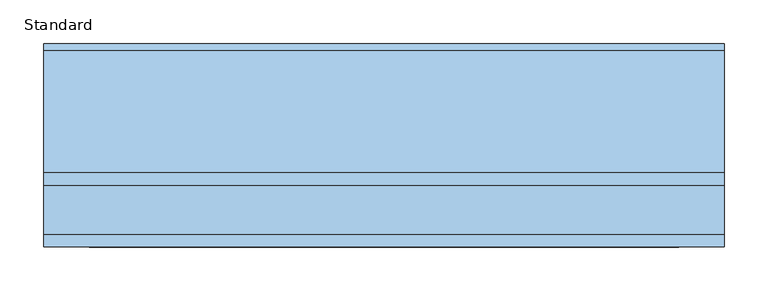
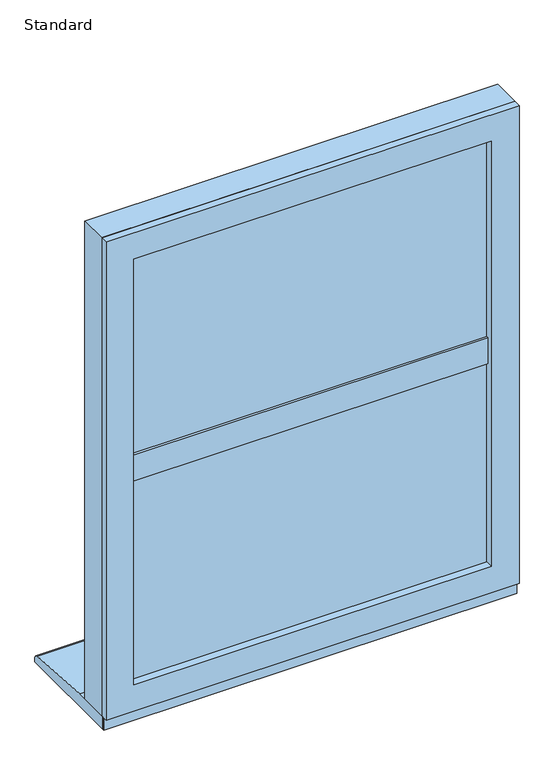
"""IFC4 building model written with IfcOpenShell, lengths in millimetres: window geometry, SMARTS_Alitherm600 : Standard."""

from ifc_helpers import new_model, si_unit, point, frame, frame_2d, origin, place, context, project, spatial, polyline, circle_curve, trimmed, segment, composite_curve, outline, extrude, faceted_brep, source, transform, mapped, element, save


def standard_74cfcb48(model_context):
    return source(origin(), model_context, "Body", "SolidModel", [
        extrude(outline(polyline([(354.1020883, 102.8298432), (354.1020883, 47.2458572), (-354.1020883, 47.2458572), (-354.1020883, 102.8298432), (354.1020883, 102.8298432)])), frame((0.0, 0.0, 1103.1), z_axis=(0.0, 0.0, 1.0), x_axis=(1.0, 0.0, 0.0)), (0.0, 0.0, 1.0), 18.8),
        extrude(outline(polyline([(337.6, 47.2458572), (337.6, 43.2798432), (-337.6, 43.2798432), (-337.6, 47.2458572), (337.6, 47.2458572)])), frame((0.0, 0.0, 1086.5979117), z_axis=(0.0, 0.0, 1.0), x_axis=(1.0, 0.0, 0.0)), (0.0, 0.0, 1.0), 51.8041766),
        extrude(outline(polyline([(-352.6, 77.7798432), (352.6, 77.7798432), (352.6, 73.7798432), (-352.6, 73.7798432), (-352.6, 77.7798432)])), frame((0.0, 0.0, 672.4), z_axis=(0.0, 0.0, 1.0), x_axis=(1.0, 0.0, 0.0)), (0.0, 0.0, 1.0), 429.1),
        extrude(outline(polyline([(-352.6, 57.7798432), (352.6, 57.7798432), (352.6, 53.7798432), (-352.6, 53.7798432), (-352.6, 57.7798432)])), frame((0.0, 0.0, 672.4), z_axis=(0.0, 0.0, 1.0), x_axis=(1.0, 0.0, 0.0)), (0.0, 0.0, 1.0), 429.1),
        extrude(outline(polyline([(1101.5, -352.6), (672.4, -352.6), (672.4, 352.6), (1101.5, 352.6), (1101.5, -352.6)]), holes=[polyline([(1091.5, 342.6), (682.4, 342.6), (682.4, -342.6), (1091.5, -342.6), (1091.5, 342.6)])]), frame((0.0, 57.7798432, 0.0), z_axis=(0.0, 1.0, 0.0), x_axis=(0.0, 0.0, 1.0)), (0.0, 0.0, 1.0), 16.0),
        faceted_brep([(-349.4160653, 102.7798432, 1098.3160653), (-337.2339746, 81.6798432, 1086.1339746), (-337.2339746, 81.6798432, 687.7660254), (-349.4160653, 102.7798432, 675.5839347), (337.2339746, 81.6798432, 687.7660254), (349.4160653, 102.7798432, 675.5839347), (337.2339746, 81.6798432, 1086.1339746), (349.4160653, 102.7798432, 1098.3160653), (354.1, 81.6798432, 1103.0), (354.1, 102.7798432, 1103.0), (-354.1, 102.7798432, 1103.0), (-354.1, 81.6798432, 1103.0), (-354.1, 102.7798432, 670.9), (-354.1, 81.6798432, 670.9), (354.1, 102.7798432, 670.9), (354.1, 81.6798432, 670.9)], [[[0, 1, 2, 3]], [[3, 2, 4, 5]], [[5, 4, 6, 7]], [[7, 6, 1, 0]], [[8, 9, 10, 11]], [[11, 10, 12, 13]], [[13, 12, 14, 15]], [[9, 14, 12, 10], [0, 3, 5, 7]], [[15, 14, 9, 8]], [[11, 13, 15, 8], [6, 4, 2, 1]]]),
        extrude(outline(polyline([(1590.0, 390.0), (1590.0, -390.0), (635.0, -390.0), (635.0, 390.0), (1590.0, 390.0)]), holes=[polyline([(670.85, 354.15), (670.85, -354.15), (1554.15, -354.15), (1554.15, 354.15), (670.85, 354.15)])]), frame((0.0, 47.2798427, 0.0), z_axis=(0.0, 1.0, 0.0), x_axis=(0.0, 0.0, 1.0)), (0.0, 0.0, 1.0), 55.5500006),
        extrude(outline(polyline([(1590.0, 390.0), (1590.0, -390.0), (635.0, -390.0), (635.0, 390.0), (1590.0, 390.0)]), holes=[polyline([(687.35, 337.65), (687.35, -337.65), (1537.65, -337.65), (1537.65, 337.65), (687.35, 337.65)])]), frame((0.0, 32.8298432, 0.0), z_axis=(0.0, 1.0, 0.0), x_axis=(0.0, 0.0, 1.0)), (0.0, 0.0, 1.0), 14.4499994),
        extrude(outline(polyline([(-352.6, 77.7798432), (352.6, 77.7798432), (352.6, 73.7798432), (-352.6, 73.7798432), (-352.6, 77.7798432)])), frame((0.0, 0.0, 1123.5), z_axis=(0.0, 0.0, 1.0), x_axis=(1.0, 0.0, 0.0)), (0.0, 0.0, 1.0), 429.1),
        extrude(outline(polyline([(-352.6, 57.7798432), (352.6, 57.7798432), (352.6, 53.7798432), (-352.6, 53.7798432), (-352.6, 57.7798432)])), frame((0.0, 0.0, 1123.5), z_axis=(0.0, 0.0, 1.0), x_axis=(1.0, 0.0, 0.0)), (0.0, 0.0, 1.0), 429.1),
        extrude(outline(polyline([(1552.6, -352.6), (1123.5, -352.6), (1123.5, 352.6), (1552.6, 352.6), (1552.6, -352.6)]), holes=[polyline([(1542.6, 342.6), (1133.5, 342.6), (1133.5, -342.6), (1542.6, -342.6), (1542.6, 342.6)])]), frame((0.0, 57.7798432, 0.0), z_axis=(0.0, 1.0, 0.0), x_axis=(0.0, 0.0, 1.0)), (0.0, 0.0, 1.0), 16.0),
        faceted_brep([(-349.4160653, 102.7798432, 1549.4160653), (-337.2339746, 81.6798432, 1537.2339746), (-337.2339746, 81.6798432, 1138.8660254), (-349.4160653, 102.7798432, 1126.6839347), (337.2339746, 81.6798432, 1138.8660254), (349.4160653, 102.7798432, 1126.6839347), (337.2339746, 81.6798432, 1537.2339746), (349.4160653, 102.7798432, 1549.4160653), (354.1, 81.6798432, 1554.1), (354.1, 102.7798432, 1554.1), (-354.1, 102.7798432, 1554.1), (-354.1, 81.6798432, 1554.1), (-354.1, 102.7798432, 1122.0), (-354.1, 81.6798432, 1122.0), (354.1, 102.7798432, 1122.0), (354.1, 81.6798432, 1122.0)], [[[0, 1, 2, 3]], [[3, 2, 4, 5]], [[5, 4, 6, 7]], [[7, 6, 1, 0]], [[8, 9, 10, 11]], [[11, 10, 12, 13]], [[13, 12, 14, 15]], [[9, 14, 12, 10], [0, 3, 5, 7]], [[15, 14, 9, 8]], [[11, 13, 15, 8], [6, 4, 2, 1]]]),
        extrude(outline(polyline([(390.0, 43.2798432), (390.0, 40.7798432), (-390.0, 40.7798432), (-390.0, 43.2798432), (390.0, 43.2798432)])), frame((0.0, 0.0, 610.0), z_axis=(0.0, 0.0, 1.0), x_axis=(1.0, 0.0, 0.0)), (0.0, 0.0, 1.0), 31.0),
        extrude(outline(composite_curve([segment(polyline([(265.7798432, 610.0), (43.2798432, 610.0), (43.2798432, 635.0), (118.7798432, 635.0), (258.4770891, 625.9276664)]), True, "CONTINUOUS"), segment(trimmed(circle_curve(frame_2d((257.7798432, 617.9581088)), 8.0), [point((258.4770891, 625.9276664))], [point((265.7798432, 617.9581088))], False, "CARTESIAN"), True, "CONTINUOUS"), segment(polyline([(265.7798432, 617.9581088), (265.7798432, 610.0)]), True, "CONTINUOUS")], self_intersect=False)), frame((-390.0, 0.0, 0.0), z_axis=(1.0, 0.0, 0.0), x_axis=(0.0, 1.0, 0.0)), (0.0, 0.0, 1.0), 780.0),
    ])


if __name__ == "__main__":
    model = new_model("IFC4")
    model_context = context("Model", 3, world=origin())
    ifc_project = project(units=[si_unit("LENGTHUNIT", "METRE", prefix="MILLI")], contexts=[model_context])
    site = spatial("IfcSite", under=ifc_project)
    building = spatial("IfcBuilding", under=site)
    placement = place(None, origin())
    standard_shape = standard_74cfcb48(model_context)
    element("IfcWindow", 1, ObjectType="SMARTS_Alitherm600 : Standard", at=placement, inside=building, context=model_context, shape_type="MappedRepresentation", body=[
        mapped(standard_shape, transform((0.0, 0.0, 0.0), x_axis=(1.0, 0.0, 0.0), y_axis=(0.0, 1.0, 0.0), z_axis=(0.0, 0.0, 1.0))),
    ])
    save(model, "model.ifc")
